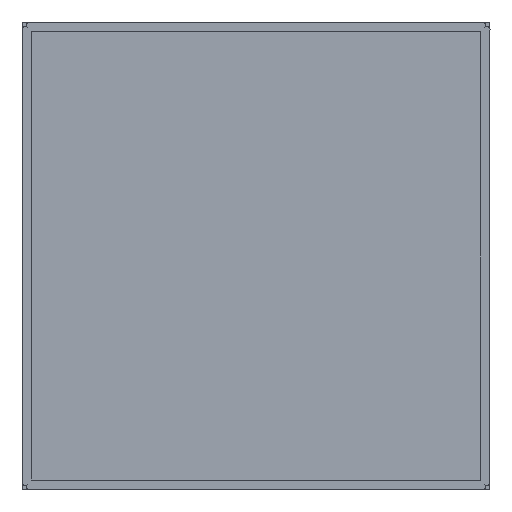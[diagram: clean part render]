
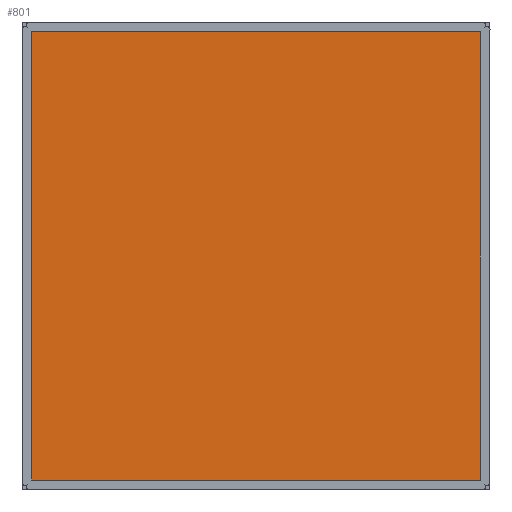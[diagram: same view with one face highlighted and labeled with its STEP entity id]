
A CAD part, front view. The second image highlights one B-rep face of the part: STEP entity #801.
In plain terms, the highlighted planar face has unit normal (0, -1, 0).
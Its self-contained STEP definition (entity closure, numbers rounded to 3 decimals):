
#117=FACE_OUTER_BOUND('',#166,.T.);
#166=EDGE_LOOP('',(#689,#690,#691,#692,#693));
#182=LINE('',#1116,#251);
#186=LINE('',#1195,#255);
#189=LINE('',#1267,#258);
#226=LINE('',#1514,#295);
#231=LINE('',#1772,#300);
#251=VECTOR('',#905,283.);
#255=VECTOR('',#911,283.);
#258=VECTOR('',#916,10.);
#295=VECTOR('',#1057,10.);
#300=VECTOR('',#1068,10.);
#318=VERTEX_POINT('',#1110);
#320=VERTEX_POINT('',#1114);
#323=VERTEX_POINT('',#1188);
#326=VERTEX_POINT('',#1193);
#329=VERTEX_POINT('',#1263);
#404=EDGE_CURVE('',#320,#318,#182,.T.);
#410=EDGE_CURVE('',#326,#323,#186,.T.);
#415=EDGE_CURVE('',#318,#329,#189,.T.);
#494=EDGE_CURVE('',#329,#326,#226,.T.);
#501=EDGE_CURVE('',#323,#320,#231,.T.);
#689=ORIENTED_EDGE('',*,*,#501,.F.);
#690=ORIENTED_EDGE('',*,*,#410,.F.);
#691=ORIENTED_EDGE('',*,*,#494,.F.);
#692=ORIENTED_EDGE('',*,*,#415,.F.);
#693=ORIENTED_EDGE('',*,*,#404,.F.);
#767=PLANE('',#887);
#801=ADVANCED_FACE('',(#117),#767,.T.);
#887=AXIS2_PLACEMENT_3D('',#1773,#1069,#1070);
#905=DIRECTION('',(0.,0.,-1.));
#911=DIRECTION('',(0.,0.,1.));
#916=DIRECTION('',(-1.,0.,0.));
#1057=DIRECTION('',(0.,0.,1.));
#1068=DIRECTION('',(1.,0.,0.));
#1069=DIRECTION('center_axis',(0.,-1.,0.));
#1070=DIRECTION('ref_axis',(0.,0.,1.));
#1110=CARTESIAN_POINT('',(2952.443,-9.6,-1220.513));
#1114=CARTESIAN_POINT('',(2952.443,-9.6,-937.513));
#1116=CARTESIAN_POINT('',(2952.443,-9.6,-937.513));
#1188=CARTESIAN_POINT('',(2669.443,-9.6,-937.513));
#1193=CARTESIAN_POINT('',(2669.443,-9.6,-1219.513));
#1195=CARTESIAN_POINT('',(2669.443,-9.6,-1220.513));
#1263=CARTESIAN_POINT('',(2669.443,-9.6,-1220.513));
#1267=CARTESIAN_POINT('',(2952.443,-9.6,-1220.513));
#1514=CARTESIAN_POINT('',(2669.443,-9.6,-1220.513));
#1772=CARTESIAN_POINT('',(2669.443,-9.6,-937.513));
#1773=CARTESIAN_POINT('Origin',(2952.443,-9.6,-1220.513));
